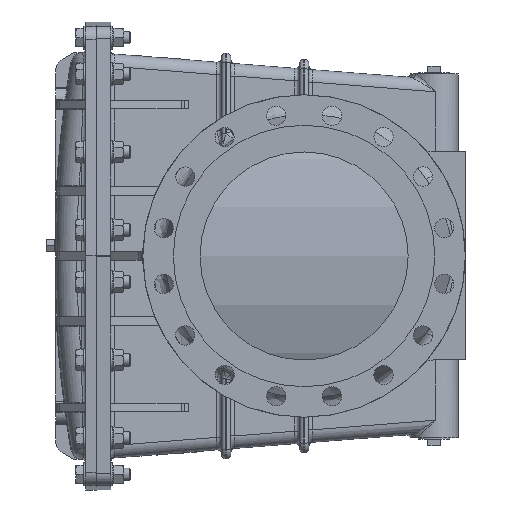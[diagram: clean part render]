
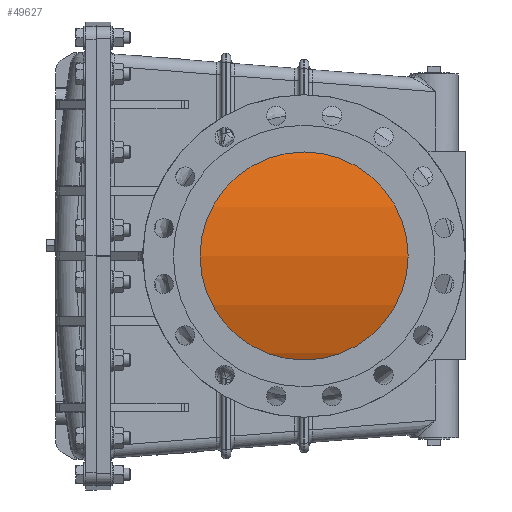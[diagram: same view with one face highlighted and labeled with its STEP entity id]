
A CAD part, left-side view. The second image highlights one B-rep face of the part: STEP entity #49627.
In plain terms, the highlighted cylindrical face has radius 564 mm (diameter 1128 mm), a partial arc.
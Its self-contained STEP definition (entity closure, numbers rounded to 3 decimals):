
#4271=LINE('',#100451,#7676);
#4272=LINE('',#100453,#7677);
#7676=VECTOR('',#64765,10.);
#7677=VECTOR('',#64768,10.);
#10040=CYLINDRICAL_SURFACE('',#54105,564.);
#12353=FACE_OUTER_BOUND('',#15619,.T.);
#15619=EDGE_LOOP('',(#42756,#42757,#42758,#42759));
#19567=CIRCLE('',#54099,564.);
#19568=CIRCLE('',#54102,564.);
#23526=VERTEX_POINT('',#100421);
#23530=VERTEX_POINT('',#100430);
#23533=VERTEX_POINT('',#100440);
#23534=VERTEX_POINT('',#100442);
#30141=EDGE_CURVE('',#23526,#23530,#19567,.T.);
#30146=EDGE_CURVE('',#23534,#23533,#19568,.T.);
#30151=EDGE_CURVE('',#23530,#23534,#4271,.T.);
#30152=EDGE_CURVE('',#23526,#23533,#4272,.T.);
#42756=ORIENTED_EDGE('',*,*,#30141,.T.);
#42757=ORIENTED_EDGE('',*,*,#30151,.T.);
#42758=ORIENTED_EDGE('',*,*,#30146,.T.);
#42759=ORIENTED_EDGE('',*,*,#30152,.F.);
#49627=ADVANCED_FACE('',(#12353),#10040,.T.);
#54099=AXIS2_PLACEMENT_3D('',#100432,#64746,#64747);
#54102=AXIS2_PLACEMENT_3D('',#100443,#64756,#64757);
#54105=AXIS2_PLACEMENT_3D('',#100452,#64766,#64767);
#64746=DIRECTION('center_axis',(0.,0.,1.));
#64747=DIRECTION('ref_axis',(0.486,0.874,0.));
#64756=DIRECTION('center_axis',(0.,0.,-1.));
#64757=DIRECTION('ref_axis',(0.486,0.874,0.));
#64765=DIRECTION('',(0.,0.,1.));
#64766=DIRECTION('center_axis',(0.,0.,1.));
#64767=DIRECTION('ref_axis',(0.486,0.874,0.));
#64768=DIRECTION('',(0.,0.,1.));
#100421=CARTESIAN_POINT('',(273.947,4.,12.));
#100430=CARTESIAN_POINT('',(-273.947,4.,12.));
#100432=CARTESIAN_POINT('Origin',(0.,-489.,12.));
#100440=CARTESIAN_POINT('',(273.947,4.,675.));
#100442=CARTESIAN_POINT('',(-273.947,4.,675.));
#100443=CARTESIAN_POINT('Origin',(0.,-489.,675.));
#100451=CARTESIAN_POINT('',(-273.947,4.,0.));
#100452=CARTESIAN_POINT('Origin',(0.,-489.,0.));
#100453=CARTESIAN_POINT('',(273.947,4.,0.));
